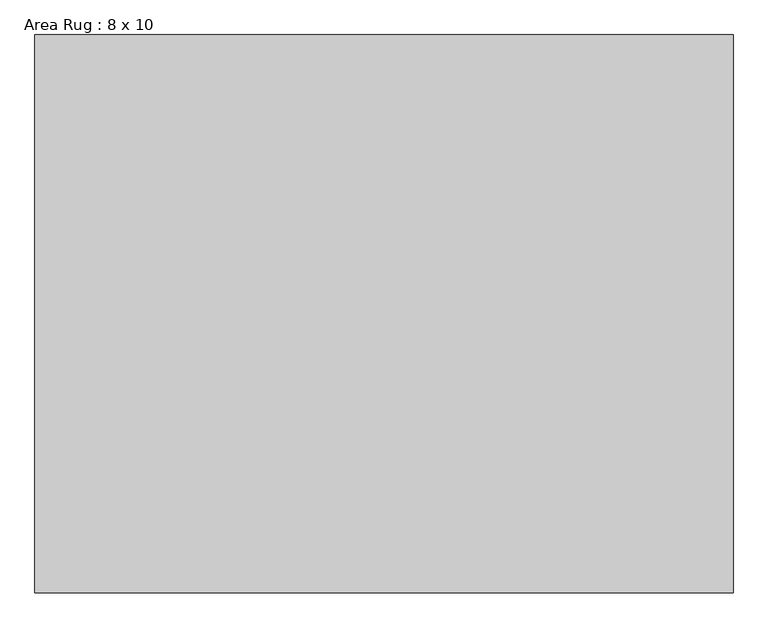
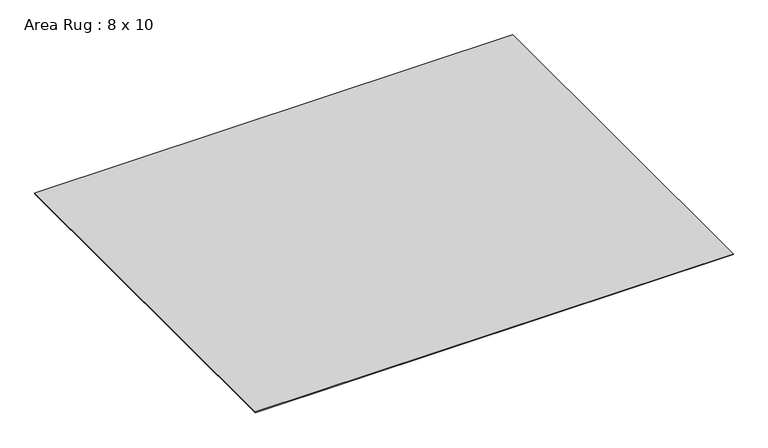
"""IFC4 building model written with IfcOpenShell, lengths in millimetres: furniture geometry, Area Rug : 8 x 10."""

from ifc_helpers import new_model, si_unit, origin, origin_with_axes, place, context, project, spatial, polyline, outline, extrude, source, transform, mapped, element, save


def area_rug_8_x_10_95d52e00(model_context):
    return source(origin(), model_context, "Body", "SweptSolid", [
        extrude(outline(polyline([(1524.0, 1219.2), (1524.0, -1219.2), (-1524.0, -1219.2), (-1524.0, 1219.2), (1524.0, 1219.2)])), origin_with_axes(), (0.0, 0.0, 1.0), 6.35),
    ])


if __name__ == "__main__":
    model = new_model("IFC4")
    model_context = context("Model", 3, world=origin())
    ifc_project = project(units=[si_unit("LENGTHUNIT", "METRE", prefix="MILLI")], contexts=[model_context])
    site = spatial("IfcSite", under=ifc_project)
    building = spatial("IfcBuilding", under=site)
    placement = place(None, origin())
    area_rug_8_x_10_shape = area_rug_8_x_10_95d52e00(model_context)
    element("IfcFurniture", 1, ObjectType="Area Rug : 8 x 10", at=placement, inside=building, context=model_context, shape_type="MappedRepresentation", body=[
        mapped(area_rug_8_x_10_shape, transform((0.0, 0.0, 0.0), x_axis=(1.0, 0.0, 0.0), y_axis=(0.0, 1.0, 0.0), z_axis=(0.0, 0.0, 1.0))),
    ])
    save(model, "model.ifc")
